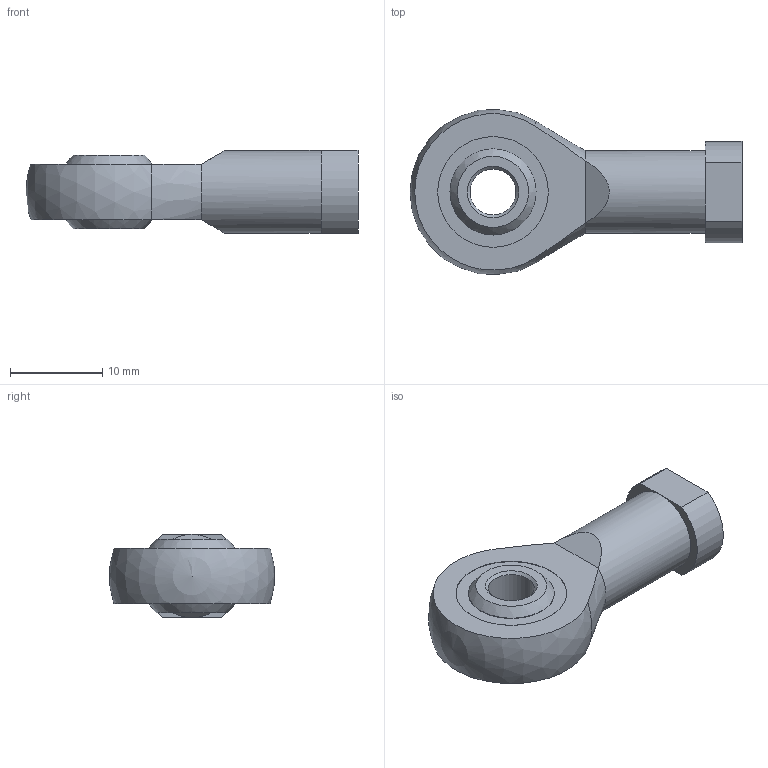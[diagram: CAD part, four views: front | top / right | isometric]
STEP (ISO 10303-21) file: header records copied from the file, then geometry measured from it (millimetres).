
FILE_DESCRIPTION(/* description */ (''),/* implementation_level */ '2;1');
FILE_NAME(/* name */ 'LAOAA-M4.step',/* time_stamp */ '2019-08-08T12:11:50+02:00',/* author */ ('octogon GmbH'),/* organization */ ('octogon GmbH'),/* preprocessor_version */ 'ST-DEVELOPER v15.6',/* originating_system */ 'Autodesk Inventor LT ',/* authorisation */ '');
FILE_SCHEMA (('AUTOMOTIVE_DESIGN { 1 0 10303 214 3 1 1 }'));
Length unit declared in the file: millimetre
Products named in the file (1): LAOAA-M4 rod end, stainless steel, female thread M4
Bounding box: 36 x 17.82 x 9 mm (x, y, z)
Volume: 2587 mm3; surface area: 1645.3 mm2
Topology: 1 solids, 1 shells, 32 faces, 77 edges, 50 vertices
Faces by surface type: plane 13, cylinder 10, cone 6, bspline 2, sphere 1
Full cylindrical faces by diameter (mm): 3.242 x2, 5 x1, 9 x1, 9.341 x2, 12 x2
Entity records: 899 total; most frequent: CARTESIAN_POINT 189, DIRECTION 144, ORIENTED_EDGE 106, AXIS2_PLACEMENT_3D 66, EDGE_CURVE 53, EDGE_LOOP 50, VERTEX_POINT 39, CIRCLE 33
